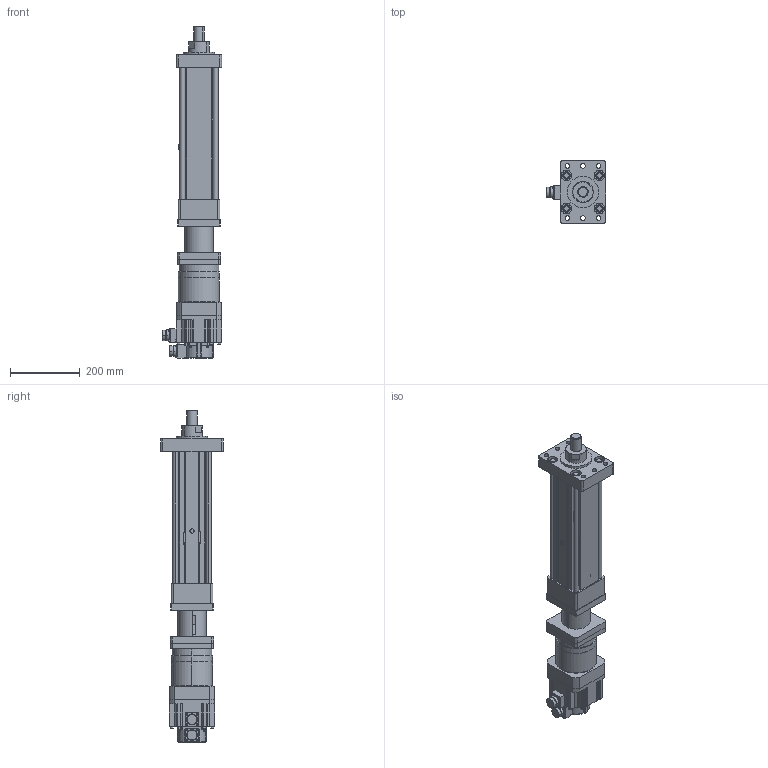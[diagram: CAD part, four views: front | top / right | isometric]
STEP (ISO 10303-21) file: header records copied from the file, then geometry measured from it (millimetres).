
FILE_DESCRIPTION (( 'STEP AP203' ), '1' );
FILE_NAME ('RKF110-D-FA-B3.STEP', '2025-01-23T10:54:39', ( '' ), ( '' ), 'SwSTEP 2.0', 'SolidWorks 2024', '' );
FILE_SCHEMA (( 'CONFIG_CONTROL_DESIGN' ));
Length unit declared in the file: millimetre
Products named in the file (13): 复件 拉杆_1^RKF110-D-FA-B3; 复件 111-后法兰_1^RKF110-D-FA-B3; 复件 复件 直连组件RKF110-D^RKF110-D-FA-B3; 复件 复件 联轴器座^复件 复件 直连组件RKF110-D_RKF110-D-FA-B3; 复件 M14_1^RKF110-D-FA-B3; 复件 油堵_KM080010_1^RKF110-D-FA-B3; 复件 复件 MDMF102L1C6^复件 复件 直连组件RKF110-D_RKF110-D-FA-B3; 复件 活塞_1^RKF110-D-FA-B3; RKF110-D-FA-B3; 复件 111-缸筒_1^RKF110-D-FA-B3; 复件 限位开关_1^RKF110-D-FA-B3; 复件 111-前法兰安装_1^RKF110-D-FA-B3; 复件 复件 FPGA-120-004^复件 复件 直连组件RKF110-D_RKF110-D-FA-B3
Assembly tree (20 placements, depth 3):
  RKF110-D-FA-B3
    复件 111-缸筒_1^RKF110-D-FA-B3
    复件 111-后法兰_1^RKF110-D-FA-B3
    复件 活塞_1^RKF110-D-FA-B3
    复件 拉杆_1^RKF110-D-FA-B3  x5
    复件 111-前法兰安装_1^RKF110-D-FA-B3
    复件 油堵_KM080010_1^RKF110-D-FA-B3
    复件 M14_1^RKF110-D-FA-B3  x4
    复件 限位开关_1^RKF110-D-FA-B3  x2
    复件 复件 直连组件RKF110-D^RKF110-D-FA-B3
      复件 复件 联轴器座^复件 复件 直连组件RKF110-D_RKF110-D-FA-B3
      复件 复件 FPGA-120-004^复件 复件 直连组件RKF110-D_RKF110-D-FA-B3
      复件 复件 MDMF102L1C6^复件 复件 直连组件RKF110-D_RKF110-D-FA-B3
Bounding box: 170 x 180 x 955 mm (x, y, z)
Volume: 7121272.6 mm3; surface area: 1095893.8 mm2
Topology: 23 solids, 24 shells, 1308 faces, 3369 edges, 2195 vertices
Faces by surface type: plane 591, cylinder 554, cone 109, bspline 52, torus 2
Entity records: 41227 total; most frequent: CARTESIAN_POINT 8764, DIRECTION 6708, ORIENTED_EDGE 6322, EDGE_CURVE 3161, AXIS2_PLACEMENT_3D 2452, VERTEX_POINT 2071, VECTOR 1804, LINE 1804
